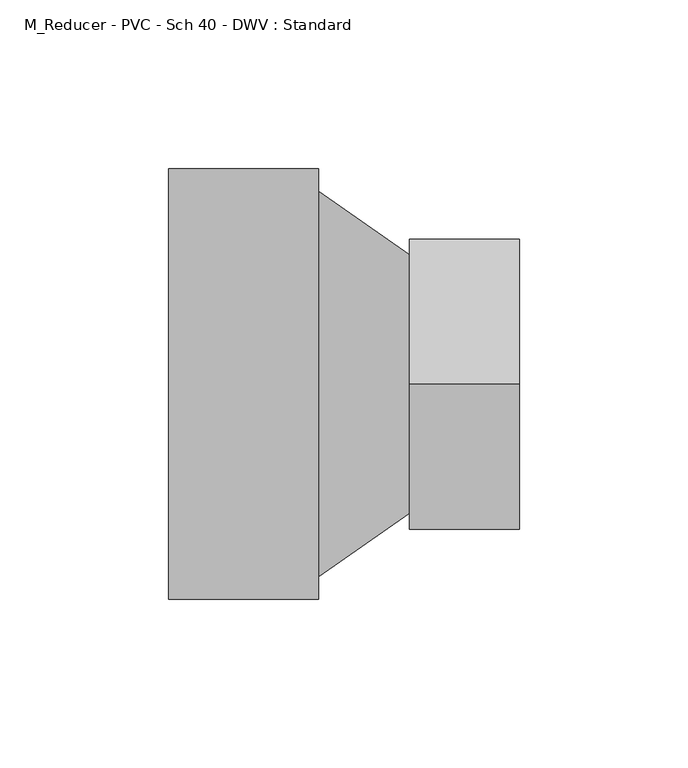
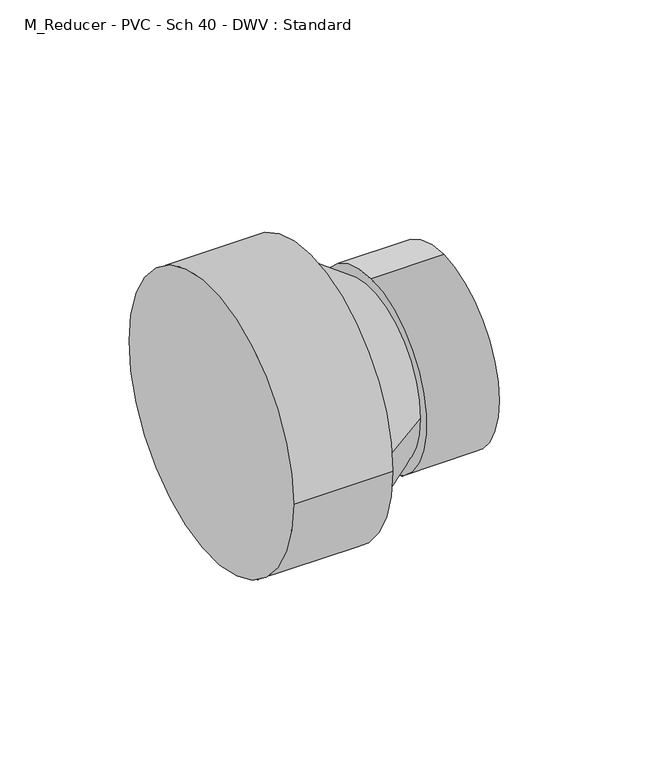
"""IFC4 building model written with IfcOpenShell, lengths in millimetres: pipe fitting geometry, M_Reducer - PVC - Sch 40 - DWV : Standard."""

import ifcopenshell
import ifcopenshell.guid

model = None  # the IFC model being written
_history = None  # IfcOwnerHistory: only IFC2X3 demands one
_inside = {}  # id of a spatial element -> (the spatial element, [elements in it])
_under = {}  # id of a project, library or spatial element -> (it, [spatial elements below it])
_declared = {}  # id of a project -> (the project, [libraries it declares])
_typed = {}  # id of a type object -> (the type object, [elements of that type])
_made_of = {}  # id of a material, layer set ... -> (it, [elements and type objects made of it])


def new_model(schema):
    """Start an empty IFC model of exactly this schema.

    Asked for "IFC4X3", IfcOpenShell would pick the latest addendum, in which some entities
    have other attributes; the version numbers below select the first issue.
    IFC2X3 requires an IfcOwnerHistory on every rooted entity: one is made here for all.
    """
    global model, _history
    if schema == "IFC4X3":
        model = ifcopenshell.file(schema_version=(4, 3, 0, 0))
    else:
        model = ifcopenshell.file(schema=schema)
    _inside.clear()
    _under.clear()
    _declared.clear()
    _typed.clear()
    _made_of.clear()
    _history = None
    if model.schema == "IFC2X3":
        org = make("IfcOrganization", Name="unknown")
        user = make(
            "IfcPersonAndOrganization",
            ThePerson=make("IfcPerson", FamilyName="unknown"),
            TheOrganization=org,
        )
        app = make(
            "IfcApplication",
            ApplicationDeveloper=org,
            Version="unknown",
            ApplicationFullName="unknown",
            ApplicationIdentifier="unknown",
        )
        _history = make(
            "IfcOwnerHistory",
            OwningUser=user,
            OwningApplication=app,
            ChangeAction="ADDED",
            CreationDate=0,
        )
    return model


def make(cls, **values):
    """One entity of the class cls with the attributes given. An attribute that is None is left unset."""
    return model.create_entity(
        cls, **{name: value for name, value in values.items() if value is not None}
    )


def rooted(cls, **values):
    """An entity with a GlobalId (a new one), such as an element, a storey or a relation."""
    return make(cls, GlobalId=ifcopenshell.guid.new(), OwnerHistory=_history, **values)


def si_unit(unit_type, name, prefix=None):
    """IfcSIUnit, for example si_unit("LENGTHUNIT", "METRE", prefix="MILLI")."""
    return make("IfcSIUnit", UnitType=unit_type, Prefix=prefix, Name=name)


def assignment(units):
    """IfcUnitAssignment: the units of a project."""
    return None if units is None else make("IfcUnitAssignment", Units=units)


def point(xyz):
    """IfcCartesianPoint."""
    return None if xyz is None else make("IfcCartesianPoint", Coordinates=xyz)


def direction(xyz):
    """IfcDirection."""
    return None if xyz is None else make("IfcDirection", DirectionRatios=xyz)


def frame(location, z_axis=None, x_axis=None):
    """IfcAxis2Placement3D, a coordinate frame: its origin and axes. An axis left out is left unset."""
    return make(
        "IfcAxis2Placement3D",
        Location=point(location),
        Axis=direction(z_axis),
        RefDirection=direction(x_axis),
    )


def origin():
    """The frame at (0, 0, 0) with its axes left unset."""
    return frame((0.0, 0.0, 0.0))


def place(relative_to, where):
    """IfcLocalPlacement: puts the frame where relative to a parent placement (None: the world)."""
    return make(
        "IfcLocalPlacement", PlacementRelTo=relative_to, RelativePlacement=where
    )


def context(
    kind, dimensions, precision=None, world=None, true_north=None, identifier=None
):
    """IfcGeometricRepresentationContext, for example the 3D "Model" context."""
    return make(
        "IfcGeometricRepresentationContext",
        ContextIdentifier=identifier,
        ContextType=kind,
        CoordinateSpaceDimension=dimensions,
        Precision=precision,
        WorldCoordinateSystem=world,
        TrueNorth=true_north,
    )


def project(units=None, contexts=None):
    """IfcProject with its units and contexts."""
    return rooted(
        "IfcProject",
        Name="project",
        RepresentationContexts=contexts,
        UnitsInContext=assignment(units),
    )


def spatial(cls, under=None, at=None, **own):
    """A site, building, storey or space (cls), placed at a placement, below another one or the project."""
    s = rooted(cls, ObjectPlacement=at, **own)
    if under is not None:
        _under.setdefault(under.id(), (under, []))[1].append(s)
    return s


def polyline(points):
    """IfcPolyline through the points."""
    return make("IfcPolyline", Points=[point(p) for p in points])


def circle_curve(where, radius):
    """IfcCircle in the frame where."""
    return make("IfcCircle", Position=where, Radius=radius)


def shape(context_of_items, identifier, shape_type, items):
    """IfcShapeRepresentation: the items that make up one representation, for example the "Body"."""
    return make(
        "IfcShapeRepresentation",
        ContextOfItems=context_of_items,
        RepresentationIdentifier=identifier,
        RepresentationType=shape_type,
        Items=items,
    )


def source(mapping_origin, context_of_items, identifier, shape_type, items):
    """IfcRepresentationMap: a shape defined once, which mapped items show again and again."""
    return make(
        "IfcRepresentationMap",
        MappingOrigin=mapping_origin,
        MappedRepresentation=shape(context_of_items, identifier, shape_type, items),
    )


def transform(
    local_origin,
    x_axis=None,
    y_axis=None,
    z_axis=None,
    scale=None,
    scale2=None,
    scale3=None,
    uniform=True,
):
    """IfcCartesianTransformationOperator3D, or its non-uniform kind. x_axis, y_axis, z_axis: its Axis1, 2, 3."""
    if uniform:
        return make(
            "IfcCartesianTransformationOperator3D",
            Axis1=direction(x_axis),
            Axis2=direction(y_axis),
            LocalOrigin=point(local_origin),
            Scale=scale,
            Axis3=direction(z_axis),
        )
    return make(
        "IfcCartesianTransformationOperator3DnonUniform",
        Axis1=direction(x_axis),
        Axis2=direction(y_axis),
        LocalOrigin=point(local_origin),
        Scale=scale,
        Axis3=direction(z_axis),
        Scale2=scale2,
        Scale3=scale3,
    )


def mapped(mapping_source, mapping_target):
    """IfcMappedItem: shows the shape of a source again, moved by a transform."""
    return make(
        "IfcMappedItem", MappingSource=mapping_source, MappingTarget=mapping_target
    )


def made_of(thing, what):
    """Note that an element or type object is made of a material, layer set ...; save() writes the relation."""
    if what is not None:
        _made_of.setdefault(what.id(), (what, []))[1].append(thing)
    return thing


def element(
    cls,
    number,
    at=None,
    inside=None,
    cuts=None,
    type_object=None,
    material=None,
    context=None,
    identifier="Body",
    shape_type=None,
    held_by="IfcProductDefinitionShape",
    body=None,
    shapes=None,
    **own,
):
    """One element of the class cls, such as IfcWall. Its Tag is "e" and its number.

    at: its placement. inside: the storey or other place that contains it. cuts: it is an
    opening in that element (IfcRelVoidsElement). A single representation is given by context,
    identifier, shape_type and body (its items); several are given by shapes. held_by: the class
    of the entity that holds the representations. save() writes the other relations.
    """
    e = rooted(cls, Tag="e%d" % number, ObjectPlacement=at, **own)
    if body is not None:
        shapes = [shape(context, identifier, shape_type, body)]
    if shapes is not None:
        e.Representation = make(held_by, Representations=shapes)
    if inside is not None:
        _inside.setdefault(inside.id(), (inside, []))[1].append(e)
    if cuts is not None:
        rooted(
            "IfcRelVoidsElement", RelatingBuildingElement=cuts, RelatedOpeningElement=e
        )
    if type_object is not None:
        _typed.setdefault(type_object.id(), (type_object, []))[1].append(e)
    return made_of(e, material)


def aggregate(whole, parts):
    """IfcRelAggregates: a whole, such as a stair, and the parts it consists of."""
    return rooted("IfcRelAggregates", RelatingObject=whole, RelatedObjects=parts)


def save(model, path):
    """Write the relations noted so far, then the file.

    IfcRelAggregates (storeys below a building ...), IfcRelContainedInSpatialStructure (elements
    in a storey), IfcRelDefinesByType, IfcRelAssociatesMaterial and IfcRelDeclares: one each for
    every whole, place, type object, material and project.
    """
    for whole, parts in _under.values():
        aggregate(whole, parts)
    for where, things in _inside.values():
        rooted(
            "IfcRelContainedInSpatialStructure",
            RelatedElements=things,
            RelatingStructure=where,
        )
    for kind, things in _typed.values():
        rooted("IfcRelDefinesByType", RelatedObjects=things, RelatingType=kind)
    for what, things in _made_of.values():
        rooted("IfcRelAssociatesMaterial", RelatedObjects=things, RelatingMaterial=what)
    for by, libraries in _declared.values():
        rooted("IfcRelDeclares", RelatingContext=by, RelatedDefinitions=libraries)
    model.write(path)


def plane_surface(at):
    """IfcPlane: the flat surface through the origin of the frame at, square to its z axis."""
    return make("IfcPlane", Position=at)


def cylinder_surface(at, radius):
    """IfcCylindricalSurface: all points at the distance radius from the z axis of the frame at."""
    return make("IfcCylindricalSurface", Position=at, Radius=radius)


def revolved_surface(curve, axis_point, axis_direction):
    """IfcSurfaceOfRevolution: the curve turned about the line through axis_point along axis_direction."""
    return make(
        "IfcSurfaceOfRevolution",
        SweptCurve=make("IfcArbitraryOpenProfileDef", ProfileType="CURVE", Curve=curve),
        AxisPosition=make("IfcAxis1Placement", Location=point(axis_point), Axis=direction(axis_direction)),
    )


def advanced_brep(points, edges, surfaces, faces):
    """IfcAdvancedBrep: a solid bounded by faces that lie on surfaces and meet in shared edges.

    An edge is (start, end): straight between two places in points (the first is 0);
    or (start, end, curve); or (start, end, curve, False) where it runs against its curve.
    A face is (place in surfaces, loops), or (place, loops, False) where it looks against
    its surface's normal. A loop lists edges by number (the first is 1), with a minus sign
    where the edge is run from its end to its start. The first loop is the outer one.
    """
    corners = [point(p) for p in points]
    vertices = [make("IfcVertexPoint", VertexGeometry=c) for c in corners]
    made = []
    for start, end, *more in edges:
        made.append(
            make(
                "IfcEdgeCurve",
                EdgeStart=vertices[start],
                EdgeEnd=vertices[end],
                EdgeGeometry=more[0] if more else make("IfcPolyline", Points=[corners[start], corners[end]]),
                SameSense=more[1] if len(more) > 1 else True,
            )
        )
    hull = []
    for where, loops, *sense in faces:
        bounds = []
        for j, loop in enumerate(loops):
            ring = [make("IfcOrientedEdge", EdgeElement=made[abs(k) - 1], Orientation=k > 0) for k in loop]
            bounds.append(
                make(
                    "IfcFaceOuterBound" if j == 0 else "IfcFaceBound",
                    Bound=make("IfcEdgeLoop", EdgeList=ring),
                    Orientation=True,
                )
            )
        hull.append(make("IfcAdvancedFace", Bounds=bounds, FaceSurface=surfaces[where], SameSense=sense[0] if sense else True))
    return make("IfcAdvancedBrep", Outer=make("IfcClosedShell", CfsFaces=hull))


def m_reducer_pvc_sch_40_dwv_standard_9996614f(model_context):
    return source(origin(), model_context, "Body", "AdvancedBrep", [
        advanced_brep(
        [(0.0, -63.754, 0.0), (0.0, 63.754, 0.0), (44.45, -63.754, 0.0), (44.45, 63.754, 0.0), (44.45, 57.15, 0.0), (44.45, -57.15, 0.0), (71.4460938, 38.3640625, 0.0), (71.4460937, -38.3640625, 0.0), (71.4460938, 0.0, 43.0871094), (71.4460938, 0.0, -43.0871094), (103.9460938, 0.0, 43.0871094), (103.9460938, 0.0, -43.0871094)],
        [
            (0, 1, circle_curve(frame((0.0, 0.0, 0.0), z_axis=(-1.0, 0.0, 0.0), x_axis=(0.0, 1.0, 0.0)), 63.754)),
            (1, 0, circle_curve(frame((0.0, 0.0, 0.0), z_axis=(-1.0, 0.0, 0.0), x_axis=(0.0, 1.0, 0.0)), 63.754)),
            (2, 3, circle_curve(frame((44.45, 0.0, 0.0), z_axis=(1.0, 0.0, 0.0), x_axis=(0.0, 1.0, 0.0)), 63.754)),
            (3, 2, circle_curve(frame((44.45, 0.0, 0.0), z_axis=(1.0, 0.0, 0.0), x_axis=(0.0, 1.0, 0.0)), 63.754)),
            (4, 5, circle_curve(frame((44.45, 0.0, 0.0), z_axis=(-1.0, 0.0, 0.0), x_axis=(0.0, -1.0, 0.0)), 57.15)),
            (5, 4, circle_curve(frame((44.45, 0.0, 0.0), z_axis=(-1.0, 0.0, 0.0), x_axis=(0.0, 1.0, 0.0)), 57.15)),
            (0, 2),
            (3, 1),
            (4, 6),
            (6, 7, circle_curve(frame((71.4460938, 0.0, 0.0), z_axis=(-1.0, 0.0, 0.0), x_axis=(0.0, -1.0, 0.0)), 38.3640625)),
            (7, 5),
            (7, 6, circle_curve(frame((71.4460938, 0.0, 0.0), z_axis=(-1.0, 0.0, 0.0), x_axis=(0.0, 1.0, 0.0)), 38.3640625)),
            (8, 9, circle_curve(frame((71.4460938, 0.0, 0.0), z_axis=(-1.0, 0.0, 0.0), x_axis=(0.0, 0.0, -1.0)), 43.0871094)),
            (9, 8, circle_curve(frame((71.4460938, 0.0, 0.0), z_axis=(-1.0, 0.0, 0.0), x_axis=(0.0, 0.0, -1.0)), 43.0871094)),
            (10, 11, circle_curve(frame((103.9460938, 0.0, 0.0), z_axis=(1.0, 0.0, 0.0), x_axis=(0.0, 0.0, -1.0)), 43.0871094)),
            (11, 10, circle_curve(frame((103.9460938, 0.0, 0.0), z_axis=(1.0, 0.0, 0.0), x_axis=(0.0, 0.0, -1.0)), 43.0871094)),
            (8, 10),
            (11, 9),
        ],
        [
            plane_surface(frame((0.0, 0.0, 0.0), z_axis=(-1.0, 0.0, 0.0), x_axis=(0.0, 0.0, 1.0))),
            plane_surface(frame((44.45, 0.0, 0.0), z_axis=(1.0, 0.0, 0.0), x_axis=(0.0, 0.0, 1.0))),
            cylinder_surface(frame((0.0, 0.0, 0.0), z_axis=(-1.0, 0.0, 0.0), x_axis=(0.0, 1.0, 0.0)), 63.754),
            revolved_surface(polyline([(71.4460938, 38.36406247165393, 0.0), (44.45, 57.15, 0.0)]), (126.5766843, 0.0, 0.0), (-1.0, 0.0, 0.0)),
            plane_surface(frame((71.4460938, 0.0, 0.0), z_axis=(-1.0, 0.0, 0.0), x_axis=(0.0, 1.0, 0.0))),
            plane_surface(frame((103.9460938, 0.0, 0.0), z_axis=(1.0, 0.0, 0.0), x_axis=(0.0, 1.0, 0.0))),
            cylinder_surface(frame((71.4460938, 0.0, 0.0), z_axis=(-1.0, 0.0, 0.0), x_axis=(0.0, 0.0, -1.0)), 43.0871094),
        ],
        [
            (0, [[1, 2]]),
            (1, [[3, 4], [5, 6]]),
            (2, [[-1, 7, -4, 8]]),
            (2, [[-2, -8, -3, -7]]),
            (3, [[9, 10, 11, -5]]),
            (3, [[-9, -6, -11, 12]]),
            (4, [[13, 14], [-10, -12]]),
            (5, [[15, 16]]),
            (6, [[-13, 17, -16, 18]]),
            (6, [[-14, -18, -15, -17]]),
        ],
    ),
    ])


if __name__ == "__main__":
    model = new_model("IFC4")
    model_context = context("Model", 3, world=origin())
    ifc_project = project(units=[si_unit("LENGTHUNIT", "METRE", prefix="MILLI")], contexts=[model_context])
    site = spatial("IfcSite", under=ifc_project)
    building = spatial("IfcBuilding", under=site)
    placement = place(None, origin())
    m_reducer_pvc_sch_40_dwv_standard_shape = m_reducer_pvc_sch_40_dwv_standard_9996614f(model_context)
    element("IfcPipeFitting", 1, ObjectType="M_Reducer - PVC - Sch 40 - DWV : Standard", at=placement, inside=building, context=model_context, shape_type="MappedRepresentation", body=[
        mapped(m_reducer_pvc_sch_40_dwv_standard_shape, transform((0.0, 0.0, 0.0), x_axis=(1.0, 0.0, 0.0), y_axis=(0.0, 1.0, 0.0), z_axis=(0.0, 0.0, 1.0))),
    ])
    save(model, "model.ifc")
